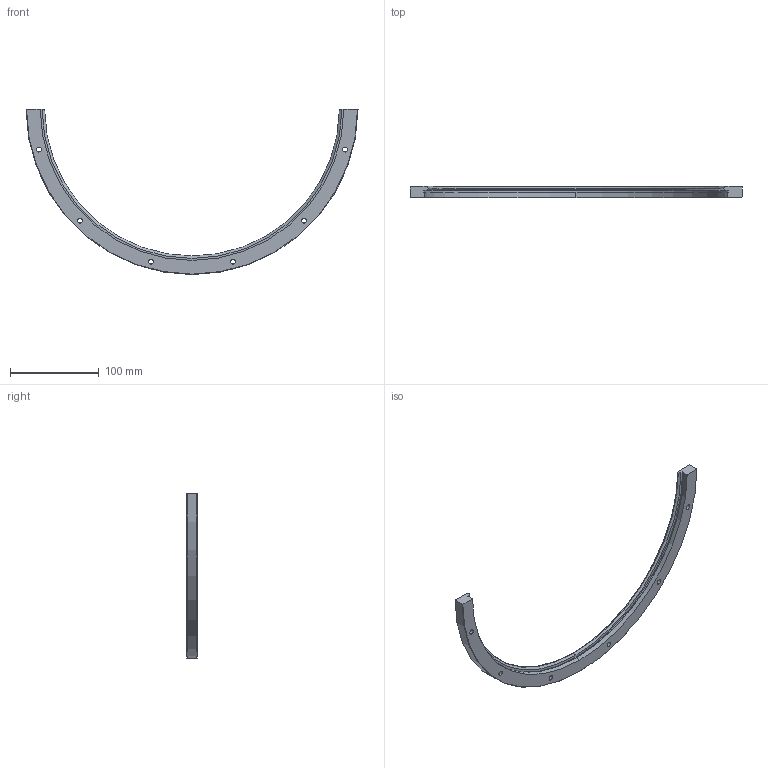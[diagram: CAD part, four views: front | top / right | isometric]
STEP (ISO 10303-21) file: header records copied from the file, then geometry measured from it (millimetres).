
FILE_DESCRIPTION(('STEP AP203'),'1');
FILE_NAME('ris_374_r180.stp','2021-08-30T05:53:11',('TraceParts'),('TraceParts S.A.'),'Spatial InterOp 3D',' ',' ');
FILE_SCHEMA(('CONFIG_CONTROL_DESIGN'));
Length unit declared in the file: millimetre
Products named in the file (1): 1
Bounding box: 373.99 x 12.25 x 186 mm (x, y, z)
Volume: 114494.1 mm3; surface area: 37518.6 mm2
Topology: 1 solids, 1 shells, 54 faces, 133 edges, 87 vertices
Faces by surface type: cylinder 30, plane 12, cone 8, torus 4
Entity records: 1721 total; most frequent: CARTESIAN_POINT 319, DIRECTION 307, ORIENTED_EDGE 266, EDGE_CURVE 133, AXIS2_PLACEMENT_3D 131, VERTEX_POINT 87, CIRCLE 76, EDGE_LOOP 72
